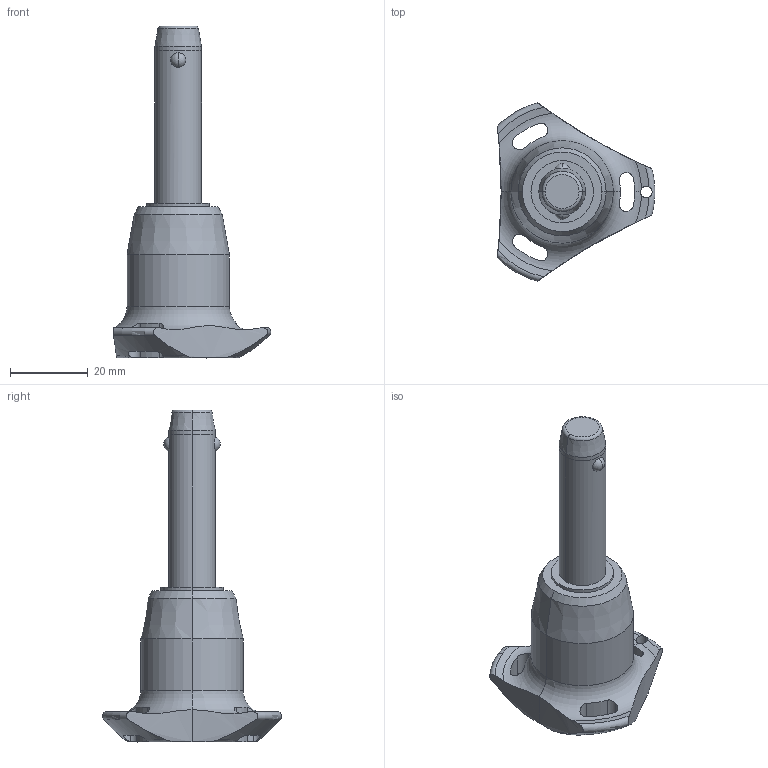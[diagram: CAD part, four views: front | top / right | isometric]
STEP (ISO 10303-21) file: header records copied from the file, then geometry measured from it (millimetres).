
FILE_DESCRIPTION (( 'STEP AP203' ), '1' );
FILE_NAME ('QR1716.M12-035-T.step', '2025-11-13T10:35:49', ( '' ), ( '' ), 'SwSTEP 2.0', 'SolidWorks 2019', '' );
FILE_SCHEMA (( 'CONFIG_CONTROL_DESIGN' ));
Length unit declared in the file: millimetre
Products named in the file (1): QR1716.M12-035-T
Bounding box: 40.5 x 45.88 x 85.3 mm (x, y, z)
Volume: 27192.2 mm3; surface area: 7635.9 mm2
Topology: 1 solids, 1 shells, 68 faces, 184 edges, 117 vertices
Faces by surface type: cylinder 32, cone 14, torus 11, sphere 6, plane 5
Entity records: 2950 total; most frequent: CARTESIAN_POINT 1194, ORIENTED_EDGE 368, DIRECTION 345, EDGE_CURVE 184, AXIS2_PLACEMENT_3D 154, VERTEX_POINT 117, CIRCLE 85, EDGE_LOOP 75
